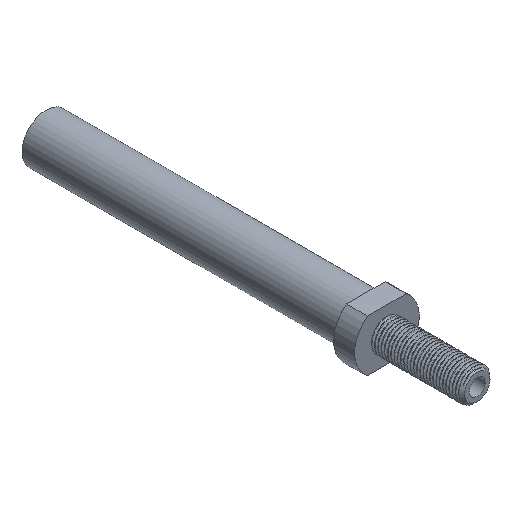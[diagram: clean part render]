
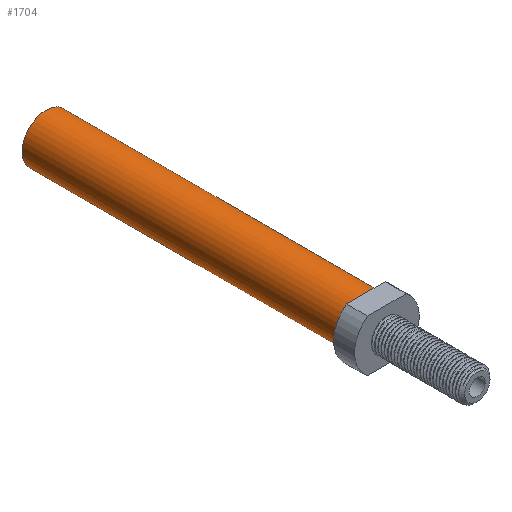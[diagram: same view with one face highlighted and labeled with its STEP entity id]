
A CAD part, isometric view. The second image highlights one B-rep face of the part: STEP entity #1704.
In plain terms, the highlighted cylindrical face has radius 7.475 mm (diameter 14.95 mm), a full revolution.
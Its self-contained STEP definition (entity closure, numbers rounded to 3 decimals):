
#122=FACE_OUTER_BOUND('',#217,.T.);
#217=EDGE_LOOP('',(#1526,#1527,#1528,#1529));
#238=CIRCLE('',#1818,7.475);
#241=CIRCLE('',#1827,7.475);
#483=LINE('',#11448,#566);
#566=VECTOR('',#2129,7.475);
#737=VERTEX_POINT('',#11426);
#742=VERTEX_POINT('',#11446);
#996=EDGE_CURVE('',#737,#737,#238,.T.);
#1005=EDGE_CURVE('',#742,#742,#241,.T.);
#1006=EDGE_CURVE('',#742,#737,#483,.T.);
#1526=ORIENTED_EDGE('',*,*,#1005,.F.);
#1527=ORIENTED_EDGE('',*,*,#1006,.T.);
#1528=ORIENTED_EDGE('',*,*,#996,.F.);
#1529=ORIENTED_EDGE('',*,*,#1006,.F.);
#1613=CYLINDRICAL_SURFACE('',#1826,7.475);
#1704=ADVANCED_FACE('',(#122),#1613,.T.);
#1818=AXIS2_PLACEMENT_3D('',#11427,#2103,#2104);
#1826=AXIS2_PLACEMENT_3D('',#11445,#2125,#2126);
#1827=AXIS2_PLACEMENT_3D('',#11447,#2127,#2128);
#2103=DIRECTION('center_axis',(0.,-1.,0.));
#2104=DIRECTION('ref_axis',(1.,0.,0.));
#2125=DIRECTION('center_axis',(0.,1.,0.));
#2126=DIRECTION('ref_axis',(1.,0.,0.));
#2127=DIRECTION('center_axis',(0.,1.,0.));
#2128=DIRECTION('ref_axis',(1.,0.,0.));
#2129=DIRECTION('',(0.,-1.,0.));
#11426=CARTESIAN_POINT('',(-7.475,-49.5,0.));
#11427=CARTESIAN_POINT('Origin',(0.,-49.5,0.));
#11445=CARTESIAN_POINT('Origin',(0.,0.,0.));
#11446=CARTESIAN_POINT('',(-7.475,49.5,0.));
#11447=CARTESIAN_POINT('Origin',(0.,49.5,0.));
#11448=CARTESIAN_POINT('',(-7.475,0.,0.));
